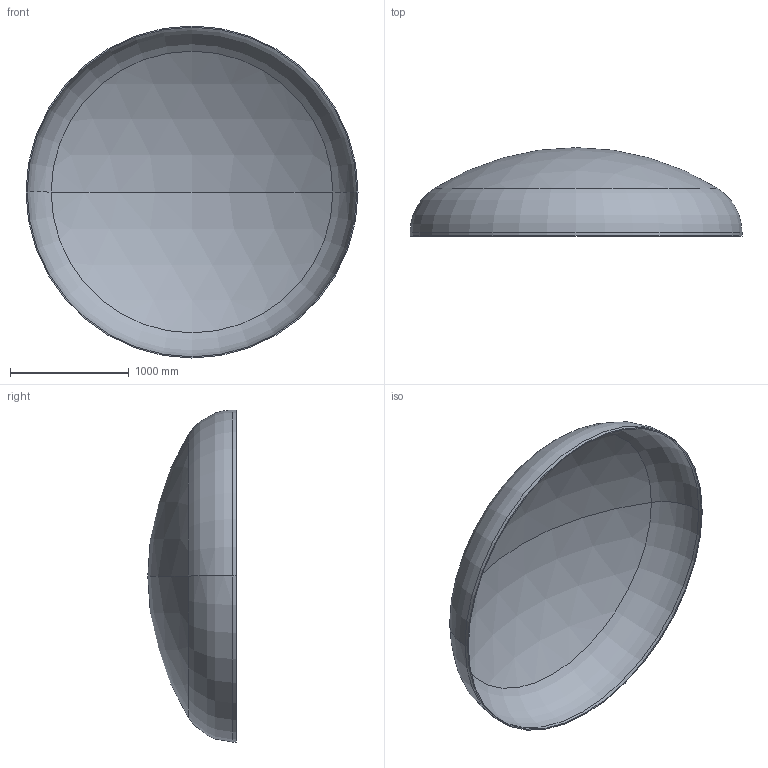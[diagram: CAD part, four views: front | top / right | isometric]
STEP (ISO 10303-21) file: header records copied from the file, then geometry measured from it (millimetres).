
FILE_DESCRIPTION (( 'STEP AP203' ), '1' );
FILE_NAME ('DIN 28013 Korbbogenform_-_Boden DIN 28013 - 2800 x 30 - I - s=10.step', '2016-07-01T16:41:13', ( '' ), ( '' ), 'SwSTEP 2.0', 'SolidWorks 2013', '' );
FILE_SCHEMA (( 'CONFIG_CONTROL_DESIGN' ));
Length unit declared in the file: millimetre
Products named in the file (1): DIN 28013 Korbbogenform_-_Boden DIN 28013 - 2800 x 30 - I - s=10
Bounding box: 2800 x 745.56 x 2800 mm (x, y, z)
Volume: 87467669.7 mm3; surface area: 17581386.7 mm2
Topology: 1 solids, 1 shells, 13 faces, 24 edges, 14 vertices
Faces by surface type: torus 4, cylinder 4, sphere 4, plane 1
Entity records: 407 total; most frequent: DIRECTION 72, CARTESIAN_POINT 52, ORIENTED_EDGE 48, AXIS2_PLACEMENT_3D 34, EDGE_CURVE 24, CIRCLE 20, EDGE_LOOP 14, VERTEX_POINT 14
